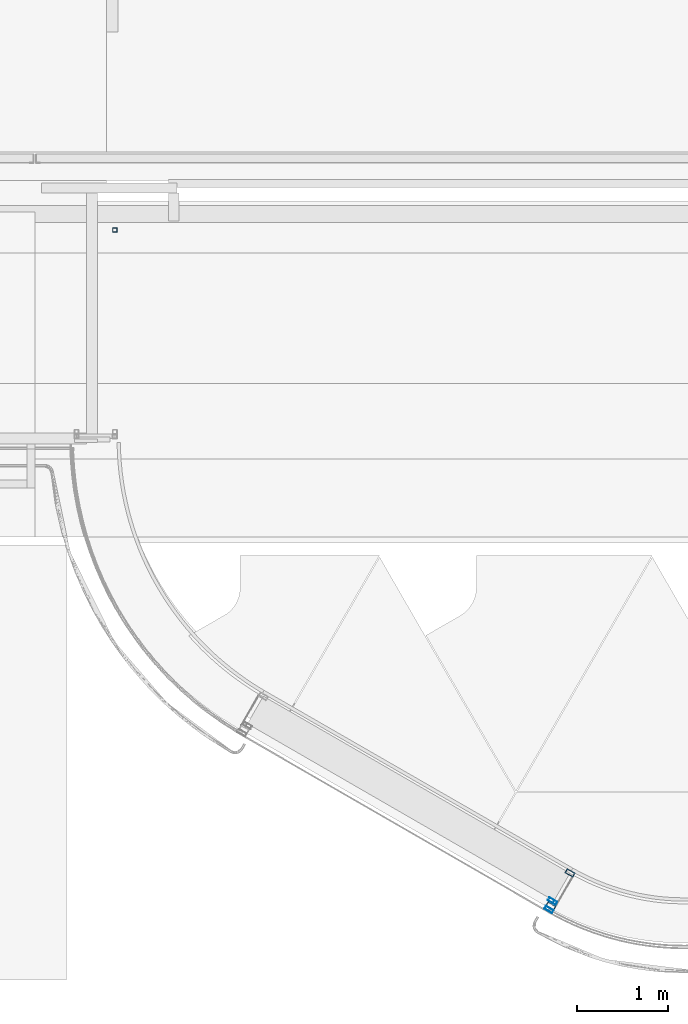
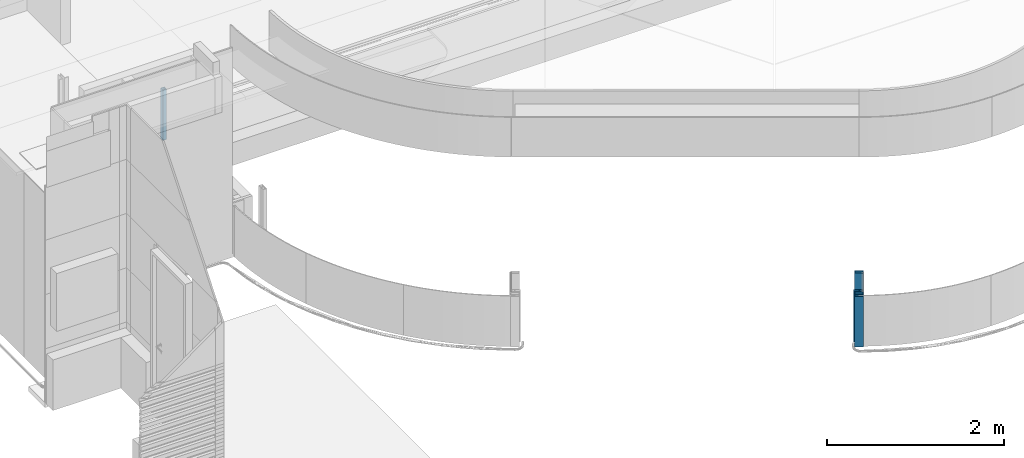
# One storey, part 2 of 18: 5 columns, 2 openings.
"""IFC2X3 building model written with IfcOpenShell, lengths in millimetres."""

from ifc_helpers import new_model, entity, si_unit, converted_unit, derived_unit, direction, frame, frame_2d, origin, origin_with_axes, origin_2d_with_axis, place, context, subcontext, project, spatial, polyline, rectangle, outline, extrude, faceted_brep, source, transform, mapped, material, type_object, element, save


model = new_model("IFC2X3")

# Units and contexts
model_context = context("Model", 3, precision=0.01, world=frame((0.0, 4.29681676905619e-09, 0.0)), true_north=direction((4.01073788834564e-13, 1.0)))
plan_context = context("Plan", 3, precision=0.01, world=frame((0.0, 4.29681676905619e-09, 0.0)), true_north=direction((4.01073788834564e-13, 1.0)))
body_context = subcontext(model_context, "Body", "Model", "MODEL_VIEW")
ifc_project = project(units=[converted_unit("PLANEANGLEUNIT", "DEGREE", entity("IfcPositiveLengthMeasure", 0.0174532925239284), si_unit("PLANEANGLEUNIT", "RADIAN"), dimensions=[0, 0, 0, 0, 0, 0, 0]), si_unit("AREAUNIT", "SQUARE_METRE"), si_unit("LENGTHUNIT", "METRE", prefix="MILLI"), si_unit("MASSUNIT", "GRAM", prefix="KILO"), si_unit("POWERUNIT", "WATT"), si_unit("PRESSUREUNIT", "PASCAL"), si_unit("FORCEUNIT", "NEWTON", prefix="KILO"), si_unit("ELECTRICVOLTAGEUNIT", "VOLT"), si_unit("ELECTRICCURRENTUNIT", "AMPERE"), si_unit("THERMODYNAMICTEMPERATUREUNIT", "DEGREE_CELSIUS"), si_unit("TIMEUNIT", "SECOND"), si_unit("VOLUMEUNIT", "CUBIC_METRE"), derived_unit("LINEARVELOCITYUNIT", [(si_unit("LENGTHUNIT", "METRE"), 1), (si_unit("TIMEUNIT", "SECOND"), -1)]), derived_unit("VOLUMETRICFLOWRATEUNIT", [(si_unit("VOLUMEUNIT", "CUBIC_METRE"), 1), (si_unit("TIMEUNIT", "SECOND"), -1)]), derived_unit("THERMALTRANSMITTANCEUNIT", [(si_unit("POWERUNIT", "WATT"), 1), (si_unit("THERMODYNAMICTEMPERATUREUNIT", "KELVIN"), -1), (si_unit("AREAUNIT", "SQUARE_METRE"), -1)]), derived_unit("SOUNDPRESSUREUNIT", [(si_unit("PRESSUREUNIT", "PASCAL"), 1)])], contexts=[model_context, plan_context])

# Site, building, storey
site_placement = place(None, origin_with_axes())
site = spatial("IfcSite", under=ifc_project, at=site_placement, Name="ENGM", CompositionType="ELEMENT")
building_placement = place(site_placement, origin_with_axes())
building = spatial("IfcBuilding", under=site, at=building_placement, Name="TH", CompositionType="ELEMENT")
storey_placement = place(building_placement, frame((0.0, 0.0, 210200.0), z_axis=(0.0, 0.0, 1.0), x_axis=(1.0, 0.0, 0.0)))
storey = spatial("IfcBuildingStorey", under=building, at=storey_placement, Name="Nivå F - 0,7 m", CompositionType="ELEMENT", Elevation=210200.0)

# Columns
ifc_material = material(Name="_NSW Stål")
column_type_1 = type_object("IfcColumnType", Name="A243 - Rullegardinskinner:A243 - Portskinne Book Shop", PredefinedType="COLUMN", material=ifc_material)
shared_shape_1 = source(origin(), body_context, "Body", "Brep", [
    faceted_brep([(-20.0, -100.0, 210200.0), (-20.0, 0.0, 210200.0), (20.0, 0.0, 210200.0), (20.0, -100.0, 210200.0), (14.0, -100.0, 210200.0), (14.0, -90.0, 210200.0), (17.0, -90.0, 210200.0), (17.0, -38.0, 210200.0), (-17.0, -38.0, 210200.0), (-17.0, -90.0, 210200.0), (-14.0, -90.0, 210200.0), (-14.0, -100.0, 210200.0), (-17.0, -35.0, 210200.0), (17.0, -35.0, 210200.0), (17.0, -3.0, 210200.0), (-17.0, -3.0, 210200.0), (-14.0, -100.0, 210900.0), (-20.0, -100.0, 210900.0), (-14.0, -90.0, 210900.0), (-17.0, -90.0, 210900.0), (-17.0, -38.0, 210900.0), (17.0, -38.0, 210900.0), (17.0, -90.0, 210900.0), (14.0, -90.0, 210900.0), (14.0, -100.0, 210900.0), (20.0, -100.0, 210900.0), (20.0, 0.0, 210900.0), (-20.0, 0.0, 210900.0), (-17.0, -3.0, 210900.0), (-17.0, -35.0, 210900.0), (17.0, -3.0, 210900.0), (17.0, -35.0, 210900.0)], [[[0, 1, 2, 3, 4, 5, 6, 7, 8, 9, 10, 11], [12, 13, 14, 15]], [[0, 11, 16, 17]], [[11, 10, 18, 16]], [[10, 9, 19, 18]], [[9, 8, 20, 19]], [[8, 7, 21, 20]], [[7, 6, 22, 21]], [[6, 5, 23, 22]], [[5, 4, 24, 23]], [[4, 3, 25, 24]], [[3, 2, 26, 25]], [[2, 1, 27, 26]], [[1, 0, 17, 27]], [[12, 15, 28, 29]], [[15, 14, 30, 28]], [[14, 13, 31, 30]], [[13, 12, 29, 31]], [[17, 16, 18, 19, 20, 21, 22, 23, 24, 25, 26, 27], [29, 28, 30, 31]]]),
])
column_1_placement = place(storey_placement, frame((903742.383960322, 476878.257094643, -210200.0), z_axis=(0.0, 0.0, 1.0), x_axis=(-0.500000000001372, -0.866025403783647, 0.0)))
element("IfcColumn", 1, at=column_1_placement, inside=storey, type_object=column_type_1, material=ifc_material, Name="A243 - Rullegardinskinner:A243 - Portskinne Book Shop", ObjectType="A243 - Rullegardinskinner:A243 - Portskinne Book Shop", context=body_context, shape_type="MappedRepresentation", body=[
    mapped(shared_shape_1, transform((0.0, 0.0, 0.0), scale=1.0)),
])
column_type_2 = type_object("IfcColumnType", Name="A241 - Glassramme Book Shop:A241 - 100x40mm", PredefinedType="COLUMN", material=ifc_material)
shared_shape_2 = source(origin(), body_context, "Body", "Brep", [
    faceted_brep([(-20.0, 50.0, 210200.0), (-15.0, 50.0, 210200.0), (-15.0, -45.0, 210200.0), (15.0, -45.0, 210200.0), (15.0, 50.0, 210200.0), (20.0, 50.0, 210200.0), (20.0, -50.0, 210200.0), (-20.0, -50.0, 210200.0), (-20.0, 50.0, 210900.0), (-15.0, 50.0, 210900.0), (-15.0, -45.0, 210900.0), (15.0, -45.0, 210900.0), (15.0, 50.0, 210900.0), (20.0, 50.0, 210900.0), (20.0, -50.0, 210900.0), (-20.0, -50.0, 210900.0)], [[[0, 1, 2, 3, 4, 5, 6, 7]], [[1, 0, 8, 9]], [[2, 1, 9, 10]], [[3, 2, 10, 11]], [[4, 3, 11, 12]], [[5, 4, 12, 13]], [[6, 5, 13, 14]], [[7, 6, 14, 15]], [[0, 7, 15, 8]], [[9, 8, 15, 14, 13, 12, 11, 10]]]),
])
column_2_placement = place(storey_placement, frame((903658.779295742, 476811.104521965, -210200.0), z_axis=(0.0, 0.0, 1.0), x_axis=(-0.500000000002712, -0.866025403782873, 0.0)))
element("IfcColumn", 2, at=column_2_placement, inside=storey, type_object=column_type_2, material=ifc_material, Name="A241 - Glassramme Book Shop:A241 - 100x40mm", ObjectType="A241 - Glassramme Book Shop:A241 - 100x40mm", context=body_context, shape_type="MappedRepresentation", body=[
    mapped(shared_shape_2, transform((0.0, 0.0, 0.0), scale=1.0)),
])
column_type_3 = type_object("IfcColumnType", Name="B222 - HUP7:B222 - HUP 50x50x5", PredefinedType="COLUMN", material=ifc_material)
shared_shape_3 = source(origin(), body_context, "Body", "SweptSolid", [
    extrude(outline(polyline([(-25.0, -25.0), (25.0, -25.0), (25.0, 25.0), (-25.0, 25.0), (-25.0, -25.0)]), holes=[polyline([(-20.0, -20.0), (-20.0, 20.0), (20.0, 20.0), (20.0, -20.0), (-20.0, -20.0)])]), frame((0.0, 0.0, 210200.0), z_axis=(0.0, 0.0, 1.0), x_axis=(-1.0, 0.0, 0.0)), (0.0, 0.0, 1.0), 700.000000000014),
])
column_3_placement = place(storey_placement, frame((898880.133962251, 484292.694644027, -210200.0), z_axis=(0.0, 0.0, 1.0), x_axis=(0.0, 1.0, 0.0)))
element("IfcColumn", 3, at=column_3_placement, inside=storey, type_object=column_type_3, material=ifc_material, Name="B222 - HUP7:B222 - HUP 50x50x5", ObjectType="B222 - HUP7:B222 - HUP 50x50x5", context=body_context, shape_type="MappedRepresentation", body=[
    mapped(shared_shape_3, transform((0.0, 0.0, 0.0), scale=1.0)),
])

# Column, opening
column_type_4 = type_object("IfcColumnType", Name="B222 - HUP7:B222 - HUP 100x50x5", PredefinedType="COLUMN", material=ifc_material)
shared_shape_4 = source(origin(), body_context, "Body", "SweptSolid", [
    extrude(rectangle(XDim=700.000000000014, YDim=100.0, at=frame_2d((-1.73372427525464e-11, 0.0), x_axis=(1.0, 0.0))), frame((-25.0, 0.0, 210550.0), z_axis=(1.0, 0.0, 0.0), x_axis=(0.0, 0.0, 1.0)), (0.0, 0.0, 1.0), 50.0),
])
column_4_placement = place(storey_placement, frame((903891.278111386, 477213.80428336, -210200.0), z_axis=(0.0, 0.0, 1.0), x_axis=(0.500000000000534, 0.86602540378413, 0.0)))
column_4 = element("IfcColumn", 4, at=column_4_placement, inside=storey, type_object=column_type_4, material=ifc_material, Name="B222 - HUP7:B222 - HUP 100x50x5", ObjectType="B222 - HUP7:B222 - HUP 100x50x5", context=body_context, shape_type="MappedRepresentation", body=[
    mapped(shared_shape_4, transform((0.0, 0.0, 0.0), scale=1.0)),
])
opening_1_placement = place(column_4_placement, frame((0.0, 0.0, 210200.0), z_axis=(0.0, 0.0, 1.0), x_axis=(0.500000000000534, 0.86602540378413, 0.0)))
element("IfcOpeningElement", 5, at=opening_1_placement, cuts=column_4, Name="B222 - HUP7:B222 - HUP 100x50x5:1", ObjectType="Opening", context=body_context, shape_type="SweptSolid", body=[
    extrude(rectangle(XDim=90.0, YDim=39.9999999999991, at=origin_2d_with_axis()), frame((0.0, 0.0, 0.0), z_axis=(0.0, 0.0, 1.0), x_axis=(0.86602540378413, 0.500000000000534, 0.0)), (0.0, 0.0, 1.0), 700.000000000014),
])

column_type_5 = type_object("IfcColumnType", Name="B222 - HUP7:B222 - HUP 100x50x5", PredefinedType="COLUMN", material=ifc_material)
column_5_placement = place(storey_placement, frame((903681.279295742, 476850.075665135, -210200.0), z_axis=(0.0, 0.0, 1.0), x_axis=(0.500000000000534, 0.86602540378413, 0.0)))
column_5 = element("IfcColumn", 6, at=column_5_placement, inside=storey, type_object=column_type_5, material=ifc_material, Name="B222 - HUP7:B222 - HUP 100x50x5", ObjectType="B222 - HUP7:B222 - HUP 100x50x5", context=body_context, shape_type="MappedRepresentation", body=[
    mapped(shared_shape_4, transform((0.0, 0.0, 0.0), scale=1.0)),
])
opening_2_placement = place(column_5_placement, frame((0.0, 0.0, 210200.0), z_axis=(0.0, 0.0, 1.0), x_axis=(0.500000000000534, 0.86602540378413, 0.0)))
element("IfcOpeningElement", 7, at=opening_2_placement, cuts=column_5, Name="B222 - HUP7:B222 - HUP 100x50x5:1", ObjectType="Opening", context=body_context, shape_type="SweptSolid", body=[
    extrude(rectangle(XDim=90.0, YDim=39.9999999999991, at=origin_2d_with_axis()), frame((0.0, 0.0, 0.0), z_axis=(0.0, 0.0, 1.0), x_axis=(0.86602540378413, 0.500000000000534, 0.0)), (0.0, 0.0, 1.0), 700.000000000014),
])

save(model, "model.ifc")
